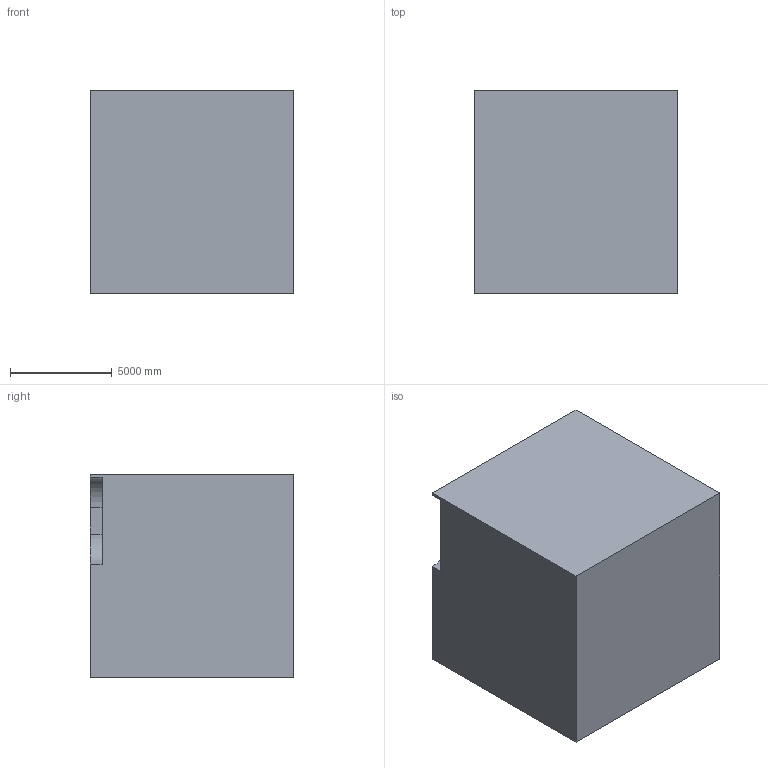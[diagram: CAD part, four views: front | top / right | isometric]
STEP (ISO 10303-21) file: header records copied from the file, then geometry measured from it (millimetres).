
FILE_DESCRIPTION (( 'STEP AP203' ), '1' );
FILE_NAME ('5.STEP', '2022-09-02T13:38:50', ( 'user' ), ( '' ), 'SwSTEP 2.0', 'SolidWorks 2021', '' );
FILE_SCHEMA (( 'CONFIG_CONTROL_DESIGN' ));
Length unit declared in the file: centimetre
Products named in the file (1): 5
Bounding box: 10000 x 10000 x 10000 mm (x, y, z)
Volume: 958288008900.4 mm3; surface area: 600979810.1 mm2
Topology: 1 solids, 1 shells, 13 faces, 33 edges, 22 vertices
Faces by surface type: plane 11, cylinder 2
Entity records: 468 total; most frequent: CARTESIAN_POINT 69, ORIENTED_EDGE 66, DIRECTION 65, EDGE_CURVE 33, VECTOR 29, LINE 29, VERTEX_POINT 22, AXIS2_PLACEMENT_3D 18
